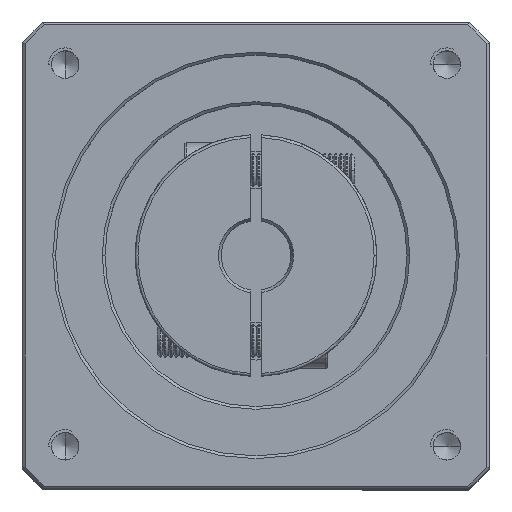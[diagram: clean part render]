
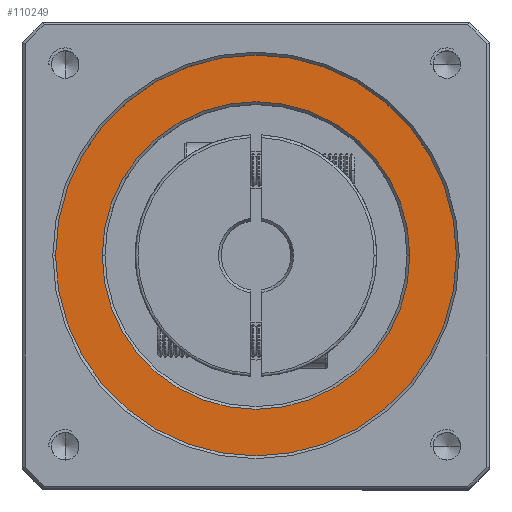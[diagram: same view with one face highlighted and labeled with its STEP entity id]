
A CAD part, top view. The second image highlights one B-rep face of the part: STEP entity #110249.
In plain terms, the highlighted planar face has unit normal (0, 0, 1).
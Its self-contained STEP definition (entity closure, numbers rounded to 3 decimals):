
#773 = CIRCLE ( 'NONE', #94969, 28. ) ;
#1658 = VERTEX_POINT ( 'NONE', #13394 ) ;
#2648 = EDGE_LOOP ( 'NONE', ( #9606, #8286 ) ) ;
#5151 = FACE_OUTER_BOUND ( 'NONE', #56561, .T. ) ;
#5946 = CARTESIAN_POINT ( 'NONE',  ( -10.304, 7.876, 176.5 ) ) ;
#8286 = ORIENTED_EDGE ( 'NONE', *, *, #16287, .T. ) ;
#9286 = PLANE ( 'NONE',  #62747 ) ;
#9606 = ORIENTED_EDGE ( 'NONE', *, *, #103644, .T. ) ;
#13394 = CARTESIAN_POINT ( 'NONE',  ( 26.196, 7.876, 176.5 ) ) ;
#14687 = DIRECTION ( 'NONE',  ( 1., 0., 0. ) ) ;
#16287 = EDGE_CURVE ( 'NONE', #104900, #72550, #773, .T. ) ;
#18466 = CARTESIAN_POINT ( 'NONE',  ( 17.696, 7.876, 176.5 ) ) ;
#29378 = DIRECTION ( 'NONE',  ( 0., 0., 1. ) ) ;
#29818 = AXIS2_PLACEMENT_3D ( 'NONE', #94966, #43010, #103675 ) ;
#32933 = DIRECTION ( 'NONE',  ( 0., 0., 1. ) ) ;
#35772 = AXIS2_PLACEMENT_3D ( 'NONE', #81554, #29378, #90226 ) ;
#37856 = EDGE_CURVE ( 'NONE', #1658, #85902, #57030, .T. ) ;
#43010 = DIRECTION ( 'NONE',  ( 0., 0., -1. ) ) ;
#44410 = CARTESIAN_POINT ( 'NONE',  ( -10.304, 7.876, 176.5 ) ) ;
#51646 = FACE_BOUND ( 'NONE', #2648, .T. ) ;
#53245 = DIRECTION ( 'NONE',  ( 1., 0., 0. ) ) ;
#56561 = EDGE_LOOP ( 'NONE', ( #77704, #85781 ) ) ;
#57030 = CIRCLE ( 'NONE', #35772, 36.5 ) ;
#58012 = AXIS2_PLACEMENT_3D ( 'NONE', #85006, #32933, #93716 ) ;
#62747 = AXIS2_PLACEMENT_3D ( 'NONE', #44410, #105023, #53245 ) ;
#62871 = EDGE_CURVE ( 'NONE', #85902, #1658, #75513, .T. ) ;
#66970 = DIRECTION ( 'NONE',  ( 0., 0., -1. ) ) ;
#70834 = CARTESIAN_POINT ( 'NONE',  ( -38.304, 7.876, 176.5 ) ) ;
#72550 = VERTEX_POINT ( 'NONE', #18466 ) ;
#75513 = CIRCLE ( 'NONE', #58012, 36.5 ) ;
#77704 = ORIENTED_EDGE ( 'NONE', *, *, #37856, .T. ) ;
#81554 = CARTESIAN_POINT ( 'NONE',  ( -10.304, 7.876, 176.5 ) ) ;
#85006 = CARTESIAN_POINT ( 'NONE',  ( -10.304, 7.876, 176.5 ) ) ;
#85781 = ORIENTED_EDGE ( 'NONE', *, *, #62871, .T. ) ;
#85902 = VERTEX_POINT ( 'NONE', #112430 ) ;
#90226 = DIRECTION ( 'NONE',  ( 1., 0., 0. ) ) ;
#93716 = DIRECTION ( 'NONE',  ( 1., 0., 0. ) ) ;
#94966 = CARTESIAN_POINT ( 'NONE',  ( -10.304, 7.876, 176.5 ) ) ;
#94969 = AXIS2_PLACEMENT_3D ( 'NONE', #5946, #66970, #14687 ) ;
#99884 = CIRCLE ( 'NONE', #29818, 28. ) ;
#103644 = EDGE_CURVE ( 'NONE', #72550, #104900, #99884, .T. ) ;
#103675 = DIRECTION ( 'NONE',  ( 1., 0., 0. ) ) ;
#104900 = VERTEX_POINT ( 'NONE', #70834 ) ;
#105023 = DIRECTION ( 'NONE',  ( 0., 0., 1. ) ) ;
#110249 = ADVANCED_FACE ( 'NONE', ( #5151, #51646 ), #9286, .T. ) ;
#112430 = CARTESIAN_POINT ( 'NONE',  ( -46.804, 7.876, 176.5 ) ) ;
